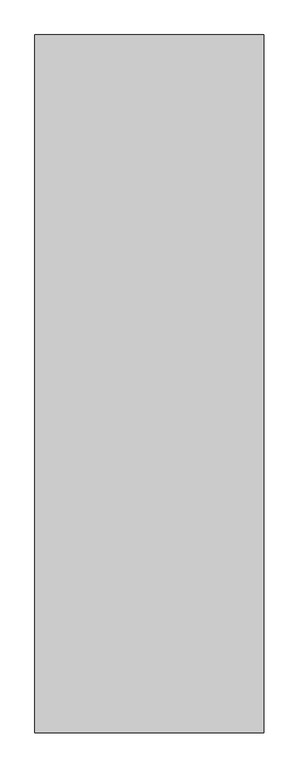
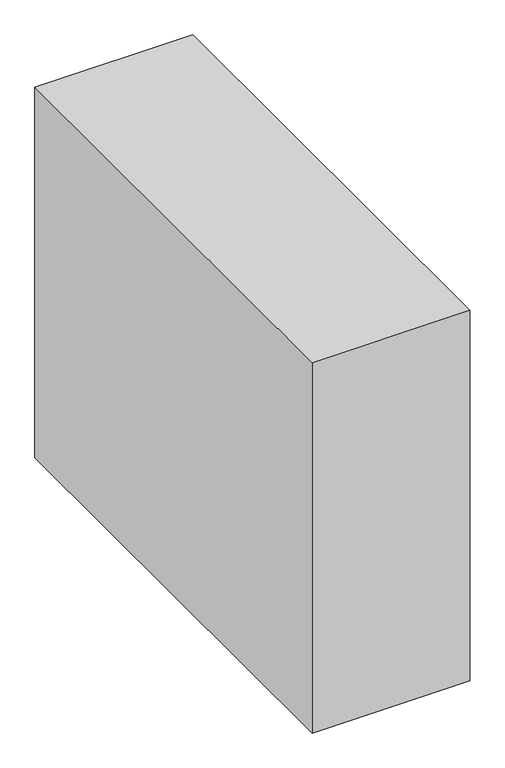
"""IFC4 building model written with IfcOpenShell, lengths in millimetres: proxy geometry."""

from ifc_helpers import new_model, si_unit, origin, origin_with_axes, place, context, project, spatial, polyline, outline, extrude, source, transform, mapped, element, save


def generic_models_7ae56e75(model_context):
    return source(origin(), model_context, "Body", "SweptSolid", [
        extrude(outline(polyline([(3005.6976032, -1247.5), (2005.6976032, -1247.5), (2005.6976032, 1800.5), (3005.6976032, 1800.5), (3005.6976032, -1247.5)])), origin_with_axes(), (0.0, 0.0, 1.0), 2485.0),
    ])


if __name__ == "__main__":
    model = new_model("IFC4")
    model_context = context("Model", 3, world=origin())
    ifc_project = project(units=[si_unit("LENGTHUNIT", "METRE", prefix="MILLI")], contexts=[model_context])
    site = spatial("IfcSite", under=ifc_project)
    building = spatial("IfcBuilding", under=site)
    placement = place(None, origin())
    generic_models_shape = generic_models_7ae56e75(model_context)
    element("IfcBuildingElementProxy", 1, Name="Generic Models", at=placement, inside=building, context=model_context, shape_type="MappedRepresentation", body=[
        mapped(generic_models_shape, transform((0.0, 0.0, 0.0), x_axis=(1.0, 0.0, 0.0), y_axis=(0.0, 1.0, 0.0), z_axis=(0.0, 0.0, 1.0))),
    ])
    save(model, "model.ifc")
